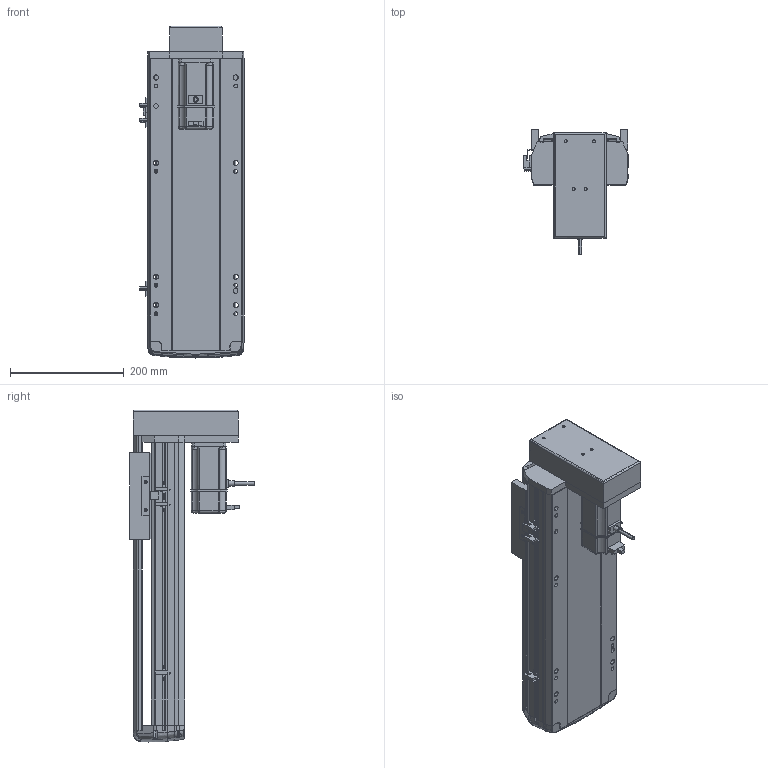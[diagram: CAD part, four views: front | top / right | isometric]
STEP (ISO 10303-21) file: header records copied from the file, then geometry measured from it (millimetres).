
FILE_DESCRIPTION (( 'STEP AP214' ), '1' );
FILE_NAME ('RTH17-XX-300-M-M40-C4.STEP', '2025-10-24T09:03:20', ( '' ), ( '' ), 'SwSTEP 2.0', 'SolidWorks 2018', '' );
FILE_SCHEMA (( 'AUTOMOTIVE_DESIGN' ));
Length unit declared in the file: millimetre
Products named in the file (10): N_RTH17-M-018盖子^RTH17-XX-XX-M-M40-C4（方程式）; N_RTH17-M-011底座^RTH17-XX-XX-M-M40-C4（方程式）; N_RTH-BL-012 感应片(外置)^RTH17-XX-XX-M-M40-C4（方程式）; N_RTH17-M-007上盖^RTH17-XX-XX-M-M40-C4（方程式）; N_RTH17-GY-001P^RTH17-XX-XX-M-M40-C4（方程式）; N_M40^RTH17-XX-XX-M-M40-C4（方程式）; RTH17-XX-300-M-M40-C4; N_RTH17-M-008-P40电机安装板下折^RTH17-XX-XX-M-M40-C4（方程式）; N_OMRON EE-SX672 換覜ん^RTH17-XX-XX-M-M40-C4ㄗ源最宒ㄘ; N_RTH17-E-004丝杆螺母连接座^RTH17-XX-XX-M-M40-C4（方程式）
Assembly tree (11 placements, depth 2):
  RTH17-XX-300-M-M40-C4
    N_RTH17-M-011底座^RTH17-XX-XX-M-M40-C4（方程式）
    N_RTH17-M-007上盖^RTH17-XX-XX-M-M40-C4（方程式）
    N_M40^RTH17-XX-XX-M-M40-C4（方程式）
    N_OMRON EE-SX672 換覜ん^RTH17-XX-XX-M-M40-C4ㄗ源最宒ㄘ  x3
    N_RTH-BL-012 感应片(外置)^RTH17-XX-XX-M-M40-C4（方程式）
    N_RTH17-M-008-P40电机安装板下折^RTH17-XX-XX-M-M40-C4（方程式）
    N_RTH17-M-018盖子^RTH17-XX-XX-M-M40-C4（方程式）
    N_RTH17-E-004丝杆螺母连接座^RTH17-XX-XX-M-M40-C4（方程式）
    N_RTH17-GY-001P^RTH17-XX-XX-M-M40-C4（方程式）
Bounding box: 183.5 x 219 x 583.27 mm (x, y, z)
Volume: 5024221 mm3; surface area: 787725.8 mm2
Topology: 10 solids, 12 shells, 1631 faces, 4536 edges, 2956 vertices
Faces by surface type: plane 828, cylinder 436, bspline 330, cone 28, torus 9
Entity records: 47224 total; most frequent: CARTESIAN_POINT 19152, ORIENTED_EDGE 6096, DIRECTION 5020, EDGE_CURVE 3052, VERTEX_POINT 1992, LINE 1738, VECTOR 1738, AXIS2_PLACEMENT_3D 1641
